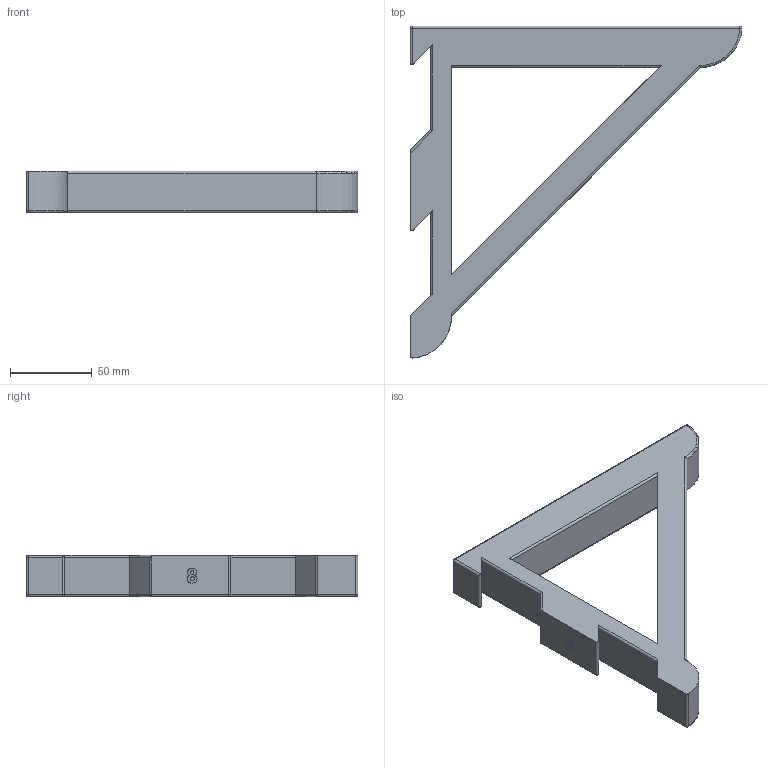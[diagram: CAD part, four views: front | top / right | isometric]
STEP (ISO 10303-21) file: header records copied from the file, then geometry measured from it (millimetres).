
FILE_DESCRIPTION(/* description */ ('STEP AP242','CAx-IF Rec.Pracs.---Representation and Presentation of Product Manufacturing Information (PMI)---4.0---2014-10-13','CAx-IF Rec.Pracs.---3D Tessellated Geometry---0.4---2014-09-14','2;1'),/* implementation_level */ '2;1');
FILE_NAME(/* name */ '677e14bc248f3576865292da',/* time_stamp */ '2025-01-08T06:01:32Z',/* author */ (''),/* organization */ (''),/* preprocessor_version */ 'ST-DEVELOPER v20',/* originating_system */ 'ONSHAPE BY PTC INC, 1.191',/* authorisation */ ' ');
FILE_SCHEMA (('AP242_MANAGED_MODEL_BASED_3D_ENGINEERING_MIM_LF { 1 0 10303 442 1 1 4 }'));
Length unit declared in the file: metre
Products named in the file (1): Shelf Bracket-8
Bounding box: 203.16 x 203.16 x 25.4 mm (x, y, z)
Volume: 295317.7 mm3; surface area: 52730.1 mm2
Topology: 1 solids, 1 shells, 93 faces, 235 edges, 138 vertices
Faces by surface type: bspline 32, cylinder 30, plane 19, sphere 9, torus 3
Entity records: 2832 total; most frequent: CARTESIAN_POINT 826, ORIENTED_EDGE 452, DIRECTION 336, EDGE_CURVE 226, VERTEX_POINT 138, AXIS2_PLACEMENT_3D 116, LINE 104, VECTOR 104
